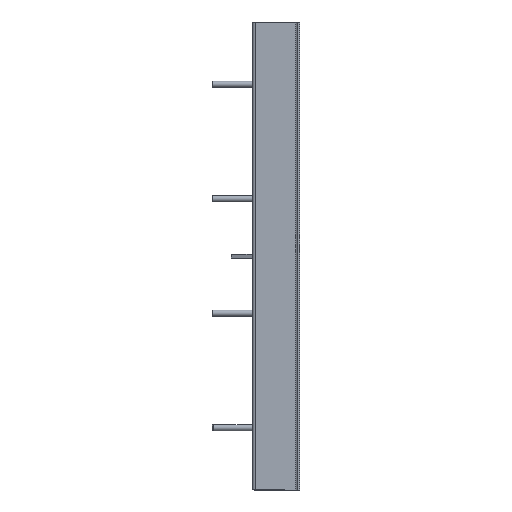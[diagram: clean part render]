
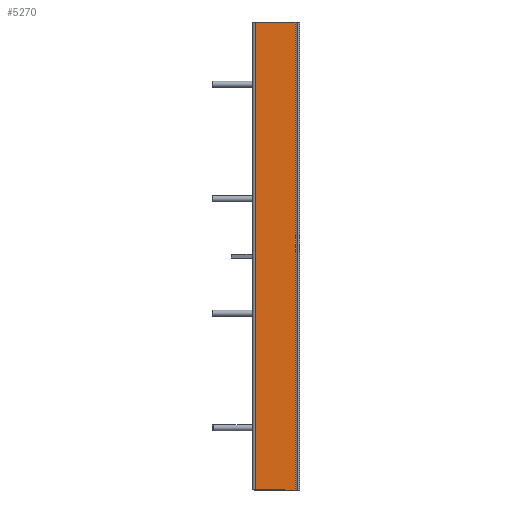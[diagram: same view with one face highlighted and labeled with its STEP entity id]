
A CAD part, left-side view. The second image highlights one B-rep face of the part: STEP entity #5270.
In plain terms, the highlighted planar face has unit normal (-1, 0, 0).
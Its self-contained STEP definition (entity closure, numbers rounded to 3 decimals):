
#6=DIRECTION('',(0.,-1.,0.));
#7=VECTOR('',#6,63.4);
#8=CARTESIAN_POINT('',(-155.,67.6,0.));
#9=LINE('',#8,#7);
#769=DIRECTION('',(0.,-1.,0.));
#770=VECTOR('',#769,63.4);
#771=CARTESIAN_POINT('',(-155.,67.6,740.));
#772=LINE('',#771,#770);
#959=DIRECTION('',(0.,0.,-1.));
#960=VECTOR('',#959,740.);
#961=CARTESIAN_POINT('',(-155.,67.6,740.));
#962=LINE('',#961,#960);
#963=DIRECTION('',(0.,0.,1.));
#964=VECTOR('',#963,740.);
#965=CARTESIAN_POINT('',(-155.,4.2,0.));
#966=LINE('',#965,#964);
#3293=CARTESIAN_POINT('',(-155.,4.2,0.));
#3294=CARTESIAN_POINT('',(-155.,4.2,740.));
#3295=VERTEX_POINT('',#3293);
#3296=VERTEX_POINT('',#3294);
#3305=CARTESIAN_POINT('',(-155.,67.6,0.));
#3307=VERTEX_POINT('',#3305);
#3311=CARTESIAN_POINT('',(-155.,67.6,740.));
#3312=VERTEX_POINT('',#3311);
#5259=CARTESIAN_POINT('',(-155.,71.8,0.));
#5260=DIRECTION('',(-1.,0.,0.));
#5261=DIRECTION('',(0.,-1.,0.));
#5262=AXIS2_PLACEMENT_3D('',#5259,#5260,#5261);
#5263=PLANE('',#5262);
#5264=ORIENTED_EDGE('',*,*,#4103,.F.);
#5265=ORIENTED_EDGE('',*,*,#4946,.T.);
#5266=ORIENTED_EDGE('',*,*,#5253,.F.);
#5267=ORIENTED_EDGE('',*,*,#4052,.F.);
#5268=EDGE_LOOP('',(#5264,#5265,#5266,#5267));
#5269=FACE_OUTER_BOUND('',#5268,.F.);
#4052=EDGE_CURVE('',#3307,#3295,#9,.T.);
#4103=EDGE_CURVE('',#3312,#3307,#962,.T.);
#4946=EDGE_CURVE('',#3312,#3296,#772,.T.);
#5253=EDGE_CURVE('',#3295,#3296,#966,.T.);
#5270=ADVANCED_FACE('',(#5269),#5263,.T.);
